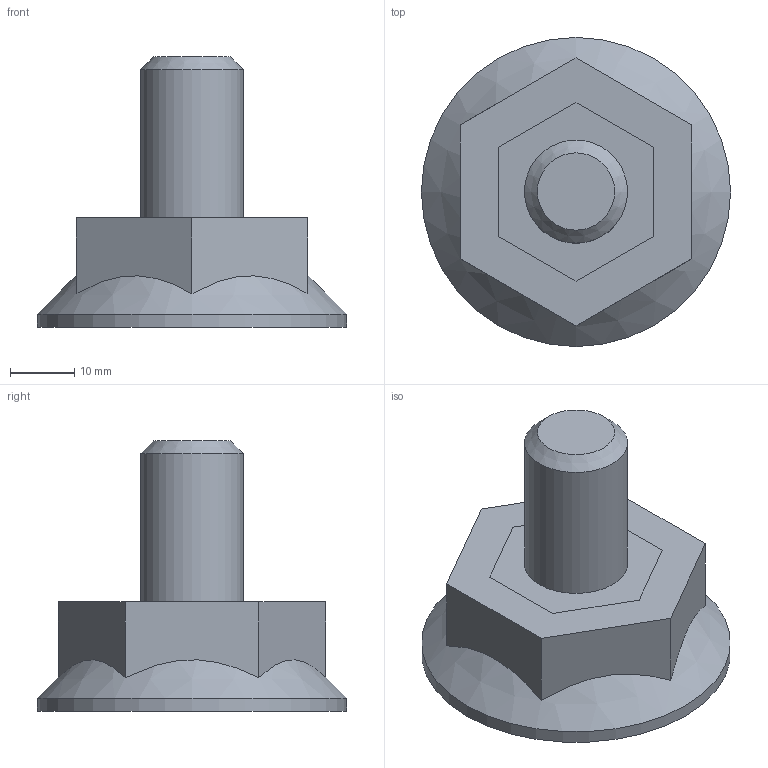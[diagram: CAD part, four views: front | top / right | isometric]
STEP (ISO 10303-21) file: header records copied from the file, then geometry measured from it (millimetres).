
FILE_DESCRIPTION( ('This file contains a STEP AP42 implementation' ,'as created by ZW3D STEP Interface translator.') ,'2;1' );
FILE_NAME( 'Stopka stala D48.stp' ,'26 812.15 957', (''), ('ZWCAD Software Co.'), 'Version 1.0', 'ZW3D to STEP translator', '' );
FILE_SCHEMA(('AP242_MANAGED_MODEL_BASED_3D_ENGINEERING_MIM_LF { 1 0 10303 442 1 1 4 }'));
Length unit declared in the file: millimetre
Products named in the file (1): 0
Bounding box: 48 x 48 x 42 mm (x, y, z)
Volume: 27111.8 mm3; surface area: 9299.8 mm2
Topology: 2 solids, 2 shells, 28 faces, 64 edges, 42 vertices
Faces by surface type: plane 24, cylinder 2, cone 2
Full cylindrical faces by diameter (mm): 16 x1, 48 x1
Entity records: 823 total; most frequent: CARTESIAN_POINT 149, ORIENTED_EDGE 128, DIRECTION 120, EDGE_CURVE 64, VECTOR 52, LINE 52, VERTEX_POINT 42, AXIS2_PLACEMENT_3D 34
